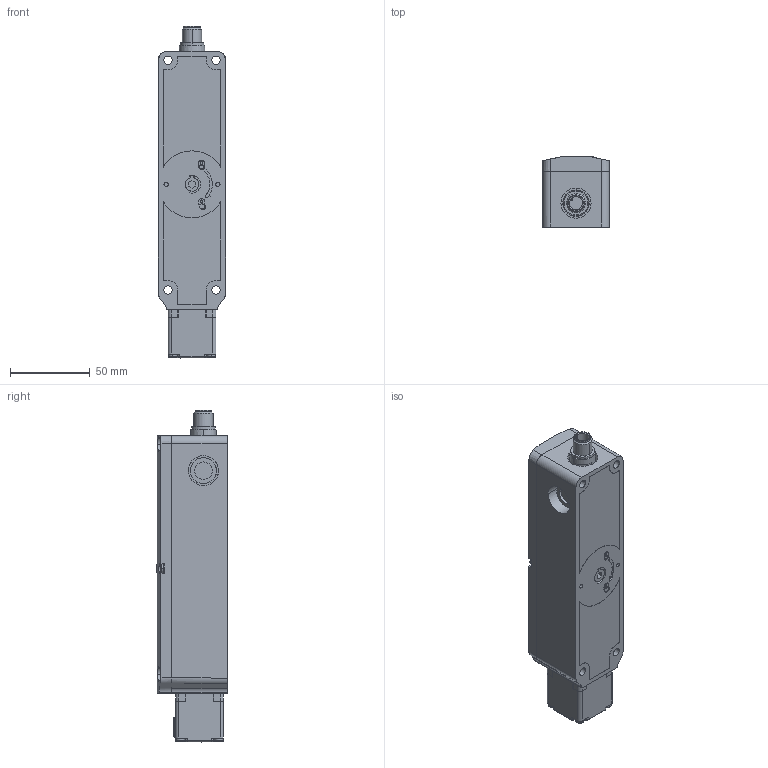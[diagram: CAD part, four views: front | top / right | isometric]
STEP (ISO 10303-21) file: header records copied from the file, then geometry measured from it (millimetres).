
FILE_DESCRIPTION((''),'2;1');
FILE_NAME('2029232_ASM','2020-06-05T11:10:09',('l.merz'),(''),'CREO PARAMETRIC BY PTC INC, 2019292','CREO PARAMETRIC BY PTC INC, 2019292','');
FILE_SCHEMA(('AUTOMOTIVE_DESIGN { 1 0 10303 214 1 1 1 1 }'));
Products named in the file (4): 2029229; 2029230; 2029231; 2029232_ASM
Assembly tree (3 placements, depth 2):
  2029232_ASM
    2029229
    2029230
    2029231
Bounding box: 42 x 44.35 x 208 mm (x, y, z)
Volume: 308555.1 mm3; surface area: 56473.8 mm2
Topology: 3 solids, 7 shells, 1255 faces, 3555 edges, 2345 vertices
Faces by surface type: extrusion 432, plane 344, cylinder 296, torus 64, bspline 52, cone 35, sphere 32
Entity records: 61521 total; most frequent: CARTESIAN_POINT 23790, ORIENTED_EDGE 7050, DIRECTION 5274, EDGE_CURVE 3525, VERTEX_POINT 2341, PRESENTATION_STYLE_ASSIGNMENT 1914, STYLED_ITEM 1914, CURVE_STYLE 1912
